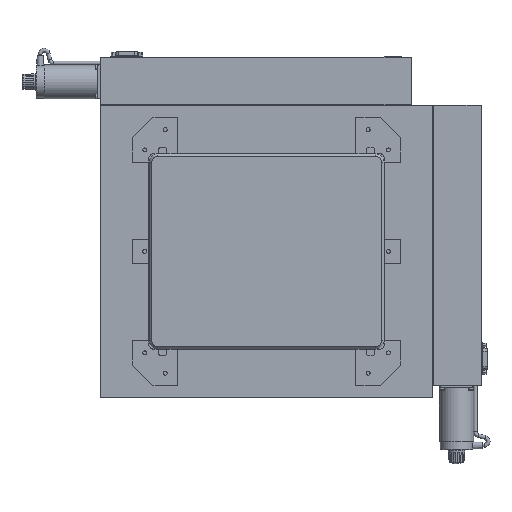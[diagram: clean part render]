
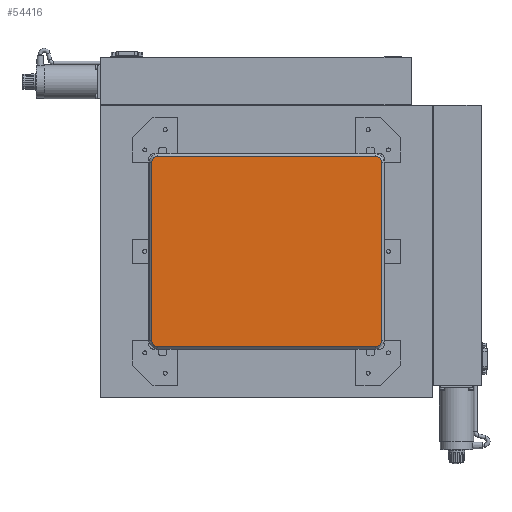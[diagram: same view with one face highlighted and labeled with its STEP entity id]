
A CAD part, top view. The second image highlights one B-rep face of the part: STEP entity #54416.
In plain terms, the highlighted planar face has unit normal (0, 0, 1).
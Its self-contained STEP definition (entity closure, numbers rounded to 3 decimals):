
#3895=PLANE('',#59086);
#6755=FACE_OUTER_BOUND('',#10238,.T.);
#10238=EDGE_LOOP('',(#48028,#48029,#48030,#48031,#48032,#48033,#48034,#48035));
#14812=LINE('',#94614,#19399);
#14817=LINE('',#94628,#19404);
#14820=LINE('',#94633,#19407);
#14824=LINE('',#94648,#19411);
#19399=VECTOR('',#72376,10.);
#19404=VECTOR('',#72391,10.);
#19407=VECTOR('',#72396,10.);
#19411=VECTOR('',#72414,10.);
#21195=CIRCLE('',#59072,7.);
#21196=CIRCLE('',#59074,7.);
#21197=CIRCLE('',#59078,7.);
#21200=CIRCLE('',#59082,7.);
#26142=VERTEX_POINT('',#94611);
#26143=VERTEX_POINT('',#94613);
#26144=VERTEX_POINT('',#94617);
#26145=VERTEX_POINT('',#94621);
#26147=VERTEX_POINT('',#94626);
#26148=VERTEX_POINT('',#94631);
#26150=VERTEX_POINT('',#94636);
#26151=VERTEX_POINT('',#94641);
#33428=EDGE_CURVE('',#26142,#26143,#14812,.T.);
#33431=EDGE_CURVE('',#26144,#26142,#21195,.T.);
#33433=EDGE_CURVE('',#26143,#26145,#21196,.T.);
#33435=EDGE_CURVE('',#26147,#26144,#14817,.T.);
#33438=EDGE_CURVE('',#26145,#26148,#14820,.T.);
#33440=EDGE_CURVE('',#26150,#26147,#21197,.T.);
#33444=EDGE_CURVE('',#26148,#26151,#21200,.T.);
#33446=EDGE_CURVE('',#26151,#26150,#14824,.T.);
#48028=ORIENTED_EDGE('',*,*,#33428,.F.);
#48029=ORIENTED_EDGE('',*,*,#33431,.F.);
#48030=ORIENTED_EDGE('',*,*,#33435,.F.);
#48031=ORIENTED_EDGE('',*,*,#33440,.F.);
#48032=ORIENTED_EDGE('',*,*,#33446,.F.);
#48033=ORIENTED_EDGE('',*,*,#33444,.F.);
#48034=ORIENTED_EDGE('',*,*,#33438,.F.);
#48035=ORIENTED_EDGE('',*,*,#33433,.F.);
#54416=ADVANCED_FACE('',(#6755),#3895,.T.);
#59072=AXIS2_PLACEMENT_3D('',#94619,#72381,#72382);
#59074=AXIS2_PLACEMENT_3D('',#94623,#72386,#72387);
#59078=AXIS2_PLACEMENT_3D('',#94638,#72400,#72401);
#59082=AXIS2_PLACEMENT_3D('',#94645,#72409,#72410);
#59086=AXIS2_PLACEMENT_3D('',#94653,#72421,#72422);
#72376=DIRECTION('',(0.,1.,0.));
#72381=DIRECTION('center_axis',(0.,0.,-1.));
#72382=DIRECTION('ref_axis',(-0.707,-0.707,0.));
#72386=DIRECTION('center_axis',(0.,0.,-1.));
#72387=DIRECTION('ref_axis',(-0.707,0.707,0.));
#72391=DIRECTION('',(-1.,0.,0.));
#72396=DIRECTION('',(1.,0.,0.));
#72400=DIRECTION('center_axis',(0.,0.,-1.));
#72401=DIRECTION('ref_axis',(0.707,-0.707,0.));
#72409=DIRECTION('center_axis',(0.,0.,-1.));
#72410=DIRECTION('ref_axis',(0.707,0.707,0.));
#72414=DIRECTION('',(0.,-1.,0.));
#72421=DIRECTION('center_axis',(0.,0.,1.));
#72422=DIRECTION('ref_axis',(1.,0.,0.));
#94611=CARTESIAN_POINT('',(3.,10.,8.));
#94613=CARTESIAN_POINT('',(3.,230.,8.));
#94614=CARTESIAN_POINT('',(3.,60.,8.));
#94617=CARTESIAN_POINT('',(10.,3.,8.));
#94619=CARTESIAN_POINT('Origin',(10.,10.,8.));
#94621=CARTESIAN_POINT('',(10.,237.,8.));
#94623=CARTESIAN_POINT('Origin',(10.,230.,8.));
#94626=CARTESIAN_POINT('',(279.,3.,8.));
#94628=CARTESIAN_POINT('',(216.75,3.,8.));
#94631=CARTESIAN_POINT('',(279.,237.,8.));
#94633=CARTESIAN_POINT('',(72.25,237.,8.));
#94636=CARTESIAN_POINT('',(286.,10.,8.));
#94638=CARTESIAN_POINT('Origin',(279.,10.,8.));
#94641=CARTESIAN_POINT('',(286.,230.,8.));
#94645=CARTESIAN_POINT('Origin',(279.,230.,8.));
#94648=CARTESIAN_POINT('',(286.,180.,8.));
#94653=CARTESIAN_POINT('Origin',(144.5,120.,8.));
